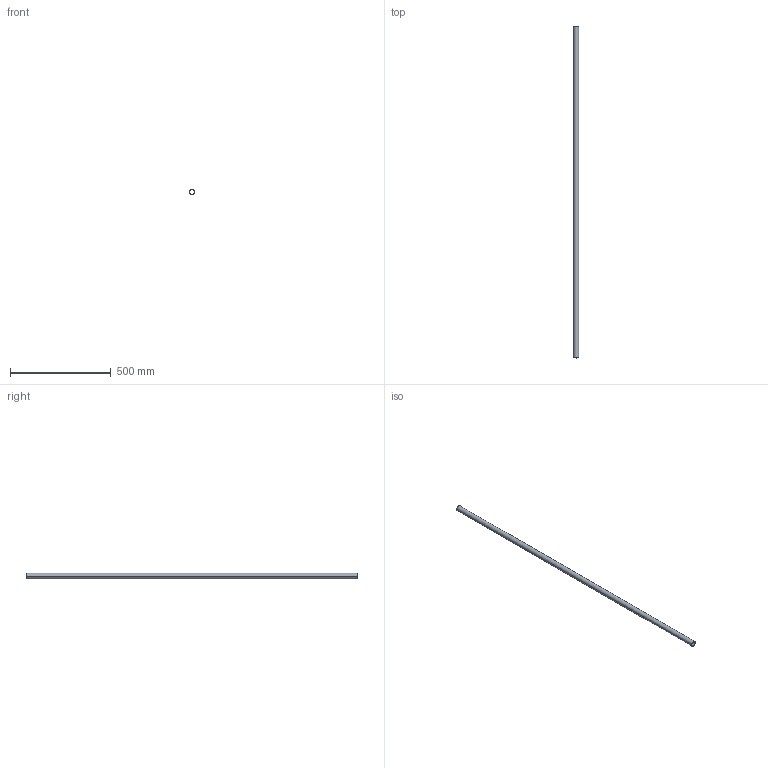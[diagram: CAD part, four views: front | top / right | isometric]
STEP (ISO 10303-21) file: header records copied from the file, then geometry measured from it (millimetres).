
FILE_DESCRIPTION (( 'STEP AP214' ), '1' );
FILE_NAME ('CCJ029-REP.208 - LISSE PLANCHER INFERIEUR B1-C1.STEP', '2024-01-10T14:54:24', ( '' ), ( '' ), 'SwSTEP 2.0', 'SolidWorks 2021', '' );
FILE_SCHEMA (( 'AUTOMOTIVE_DESIGN' ));
Length unit declared in the file: millimetre
Products named in the file (1): CCJ029-REP.208 - LISSE PLANCHER INFERIEUR B1-C1
Bounding box: 26.9 x 1651 x 26.9 mm (x, y, z)
Volume: 293467.4 mm3; surface area: 255544.6 mm2
Topology: 1 solids, 1 shells, 6 faces, 12 edges, 8 vertices
Faces by surface type: cylinder 4, plane 2
Entity records: 202 total; most frequent: DIRECTION 34, CARTESIAN_POINT 27, ORIENTED_EDGE 24, AXIS2_PLACEMENT_3D 15, EDGE_CURVE 12, CIRCLE 8, VERTEX_POINT 8, EDGE_LOOP 8
